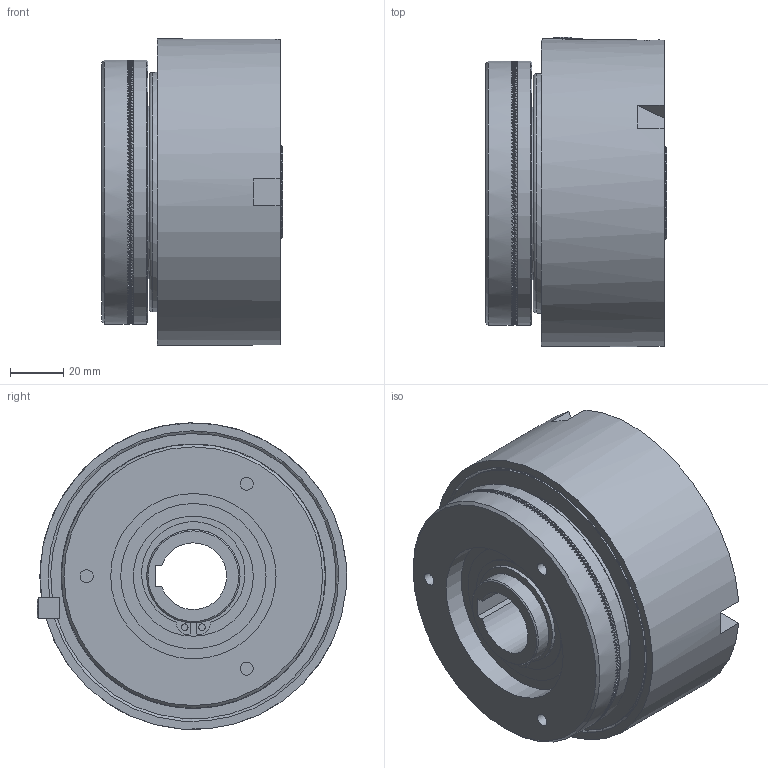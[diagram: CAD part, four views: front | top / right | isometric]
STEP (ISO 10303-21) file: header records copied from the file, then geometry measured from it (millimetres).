
FILE_DESCRIPTION((''),'2;1');
FILE_NAME('\\Srv-tecnico\dati\UFFICIO TECNICO\ARCHIVIO INVENTOR\DISEGNI\UFFICIO TECNICO\03_Friz_Oleodinamiche e Pneumatiche_Cilindro_Statico\03_25 DP\03_25_01_01 DP-01\03_25_01_01 DP01@STEP.stp','2013-10-01T15:01:22',('stefano'),(''),'Autodesk Inventor 2010','Autodesk Inventor 2010','');
FILE_SCHEMA(('CONFIG_CONTROL_DESIGN'));
Length unit declared in the file: millimetre
Products named in the file (1): 03_25_01_01 DP01_Sostituto_1
Bounding box: 68 x 116 x 114.81 mm (x, y, z)
Volume: 433206.3 mm3; surface area: 137134.2 mm2
Topology: 8 solids, 8 shells, 2493 faces, 7472 edges, 4967 vertices
Faces by surface type: plane 1855, cylinder 369, torus 211, bspline 24, sphere 20, cone 14
Full cylindrical faces by diameter (mm): 4 x1, 7 x1, 8.566 x1, 33 x2, 35 x5, 43.64 x2, 45 x1, 52 x1, 53.36 x2, 54.5 x1, 55 x2, 62 x3, 65 x1, 66 x1, 66.2 x2, 75 x1, 78.8 x2, 80 x1, 90 x4, 99 x2, 100 x1, 107 x1, 115 x1
Entity records: 92281 total; most frequent: CARTESIAN_POINT 22255, DIRECTION 16323, ORIENTED_EDGE 14598, EDGE_CURVE 7299, AXIS2_PLACEMENT_3D 7049, VERTEX_POINT 4891, ELLIPSE 2643, EDGE_LOOP 2640
